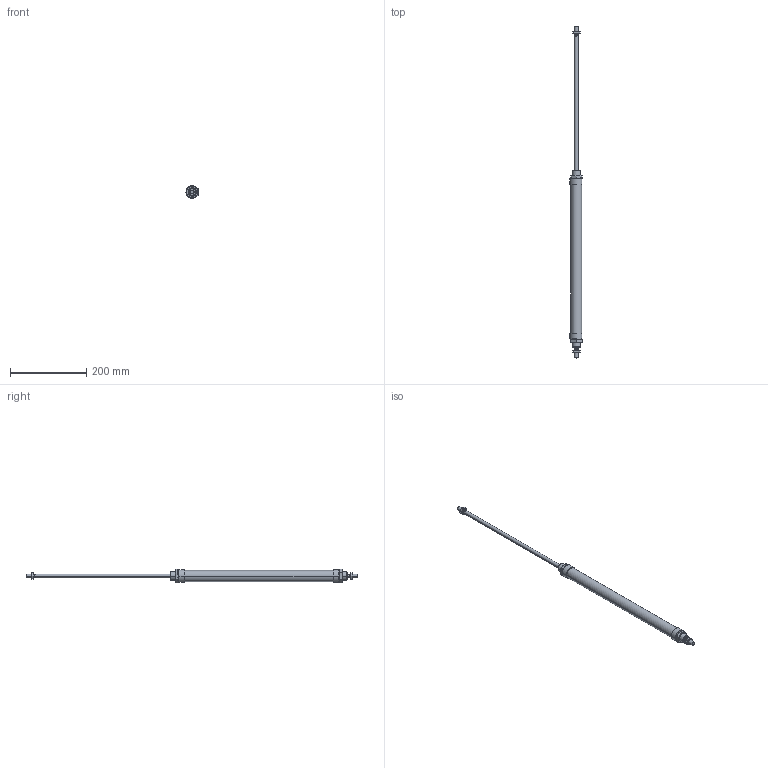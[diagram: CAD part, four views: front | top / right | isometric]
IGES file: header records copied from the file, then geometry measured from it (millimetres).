
Global section: file name: No Iges File Name specified; native system: AutoDesk Inventor R6.0; preprocessor: AutoDesk Inventor Iges Exporter R6.0; author: No Author specified; organization: No Organization specified; date: 20030403.072545; units: millimetre
Bounding box: 31.5 x 869 x 34.64 mm (x, y, z)
Volume: 337685.1 mm3; surface area: 91538.2 mm2
Topology: 6 solids, 6 shells, 184 faces, 396 edges, 232 vertices
Faces by surface type: cone 68, plane 60, bspline 30, cylinder 20, revolution 6
